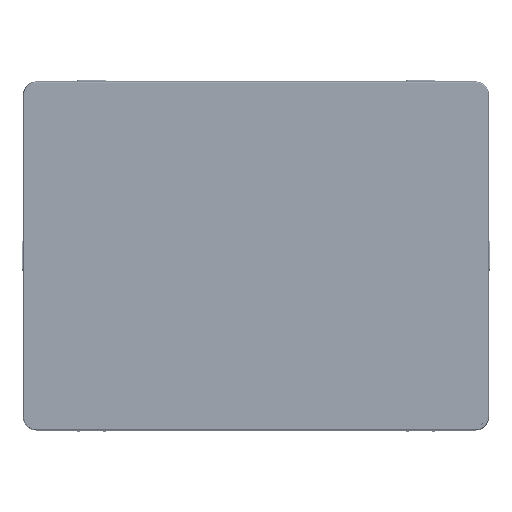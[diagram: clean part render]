
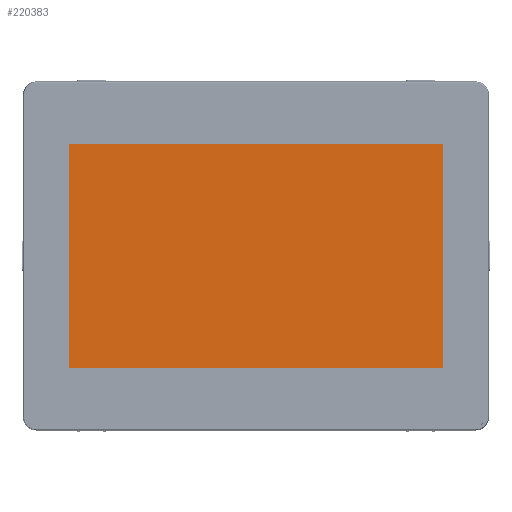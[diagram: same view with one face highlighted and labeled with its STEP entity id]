
A CAD part, top view. The second image highlights one B-rep face of the part: STEP entity #220383.
In plain terms, the highlighted planar face has unit normal (0, 0, 1).
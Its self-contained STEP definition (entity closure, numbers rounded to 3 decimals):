
#219997=DIRECTION('',(1.,0.,0.));
#219998=VECTOR('',#219997,219.4);
#219999=CARTESIAN_POINT('',(-109.7,66.28,0.15));
#220000=LINE('',#219999,#219998);
#220001=CARTESIAN_POINT('',(-109.7,65.78,0.15));
#220002=DIRECTION('',(0.,0.,1.));
#220003=DIRECTION('',(0.,1.,0.));
#220004=AXIS2_PLACEMENT_3D('',#220001,#220002,#220003);
#220014=DIRECTION('',(0.,1.,0.));
#220015=VECTOR('',#220014,131.56);
#220016=CARTESIAN_POINT('',(-110.2,-65.78,0.15));
#220017=LINE('',#220016,#220015);
#220018=CARTESIAN_POINT('',(-109.7,-65.78,0.15));
#220019=DIRECTION('',(0.,0.,1.));
#220020=DIRECTION('',(-1.,0.,0.));
#220021=AXIS2_PLACEMENT_3D('',#220018,#220019,#220020);
#220031=DIRECTION('',(-1.,0.,0.));
#220032=VECTOR('',#220031,219.4);
#220033=CARTESIAN_POINT('',(109.7,-66.28,0.15));
#220034=LINE('',#220033,#220032);
#220035=CARTESIAN_POINT('',(109.7,-65.78,0.15));
#220036=DIRECTION('',(0.,0.,1.));
#220037=DIRECTION('',(0.,-1.,0.));
#220038=AXIS2_PLACEMENT_3D('',#220035,#220036,#220037);
#220048=DIRECTION('',(0.,-1.,0.));
#220049=VECTOR('',#220048,131.56);
#220050=CARTESIAN_POINT('',(110.2,65.78,0.15));
#220051=LINE('',#220050,#220049);
#220052=CARTESIAN_POINT('',(109.7,65.78,0.15));
#220053=DIRECTION('',(0.,0.,1.));
#220054=DIRECTION('',(1.,0.,0.));
#220055=AXIS2_PLACEMENT_3D('',#220052,#220053,#220054);
#220131=CARTESIAN_POINT('',(-109.7,66.28,0.15));
#220132=CARTESIAN_POINT('',(109.7,66.28,0.15));
#220133=VERTEX_POINT('',#220131);
#220134=VERTEX_POINT('',#220132);
#220135=CARTESIAN_POINT('',(110.2,65.78,0.15));
#220136=VERTEX_POINT('',#220135);
#220137=CARTESIAN_POINT('',(110.2,-65.78,0.15));
#220138=VERTEX_POINT('',#220137);
#220139=CARTESIAN_POINT('',(109.7,-66.28,0.15));
#220140=VERTEX_POINT('',#220139);
#220141=CARTESIAN_POINT('',(-109.7,-66.28,0.15));
#220142=VERTEX_POINT('',#220141);
#220143=CARTESIAN_POINT('',(-110.2,-65.78,0.15));
#220144=VERTEX_POINT('',#220143);
#220145=CARTESIAN_POINT('',(-110.2,65.78,0.15));
#220146=VERTEX_POINT('',#220145);
#220360=CARTESIAN_POINT('',(0.,0.,0.15));
#220361=DIRECTION('',(0.,0.,1.));
#220362=DIRECTION('',(1.,0.,0.));
#220363=AXIS2_PLACEMENT_3D('',#220360,#220361,#220362);
#220364=PLANE('',#220363);
#220366=ORIENTED_EDGE('',*,*,#220365,.T.);
#220368=ORIENTED_EDGE('',*,*,#220367,.F.);
#220370=ORIENTED_EDGE('',*,*,#220369,.T.);
#220372=ORIENTED_EDGE('',*,*,#220371,.F.);
#220374=ORIENTED_EDGE('',*,*,#220373,.T.);
#220376=ORIENTED_EDGE('',*,*,#220375,.F.);
#220378=ORIENTED_EDGE('',*,*,#220377,.T.);
#220380=ORIENTED_EDGE('',*,*,#220379,.F.);
#220381=EDGE_LOOP('',(#220366,#220368,#220370,#220372,#220374,#220376,#220378,
#220380));
#220382=FACE_OUTER_BOUND('',#220381,.F.);
#220005=CIRCLE('',#220004,0.5);
#220022=CIRCLE('',#220021,0.5);
#220039=CIRCLE('',#220038,0.5);
#220056=CIRCLE('',#220055,0.5);
#220365=EDGE_CURVE('',#220133,#220134,#220000,.T.);
#220367=EDGE_CURVE('',#220136,#220134,#220056,.T.);
#220369=EDGE_CURVE('',#220136,#220138,#220051,.T.);
#220371=EDGE_CURVE('',#220140,#220138,#220039,.T.);
#220373=EDGE_CURVE('',#220140,#220142,#220034,.T.);
#220375=EDGE_CURVE('',#220144,#220142,#220022,.T.);
#220377=EDGE_CURVE('',#220144,#220146,#220017,.T.);
#220379=EDGE_CURVE('',#220133,#220146,#220005,.T.);
#220383=ADVANCED_FACE('',(#220382),#220364,.T.);
